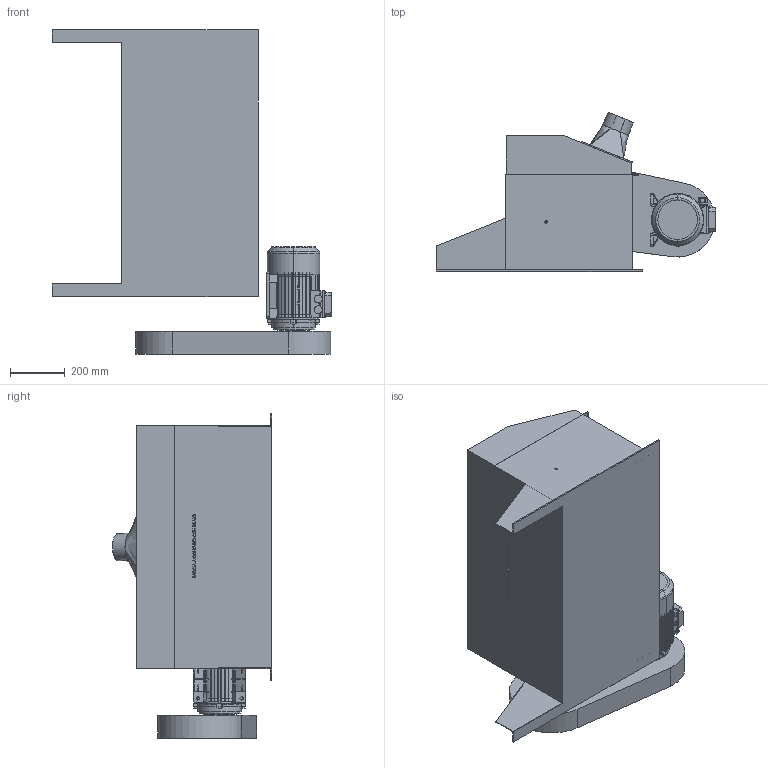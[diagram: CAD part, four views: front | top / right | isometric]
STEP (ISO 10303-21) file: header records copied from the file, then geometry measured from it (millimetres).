
FILE_DESCRIPTION (( 'STEP AP203' ), '1' );
FILE_NAME ('30770.step', '2019-03-14T14:33:05', ( 'PC' ), ( 'Hewlett-Packard Company' ), 'SwSTEP 2.0', 'SolidWorks 2016', '' );
FILE_SCHEMA (( 'CONFIG_CONTROL_DESIGN' ));
Length unit declared in the file: millimetre
Products named in the file (1): 30770
Bounding box: 1017.5 x 579.42 x 1182 mm (x, y, z)
Volume: 214936106.5 mm3; surface area: 4630790.1 mm2
Topology: 8 solids, 9 shells, 963 faces, 2502 edges, 1613 vertices
Faces by surface type: plane 655, cylinder 113, cone 103, bspline 86, torus 6
Entity records: 40133 total; most frequent: CARTESIAN_POINT 17125, ORIENTED_EDGE 5000, DIRECTION 4316, EDGE_CURVE 2500, VECTOR 1676, LINE 1676, VERTEX_POINT 1613, AXIS2_PLACEMENT_3D 1320
